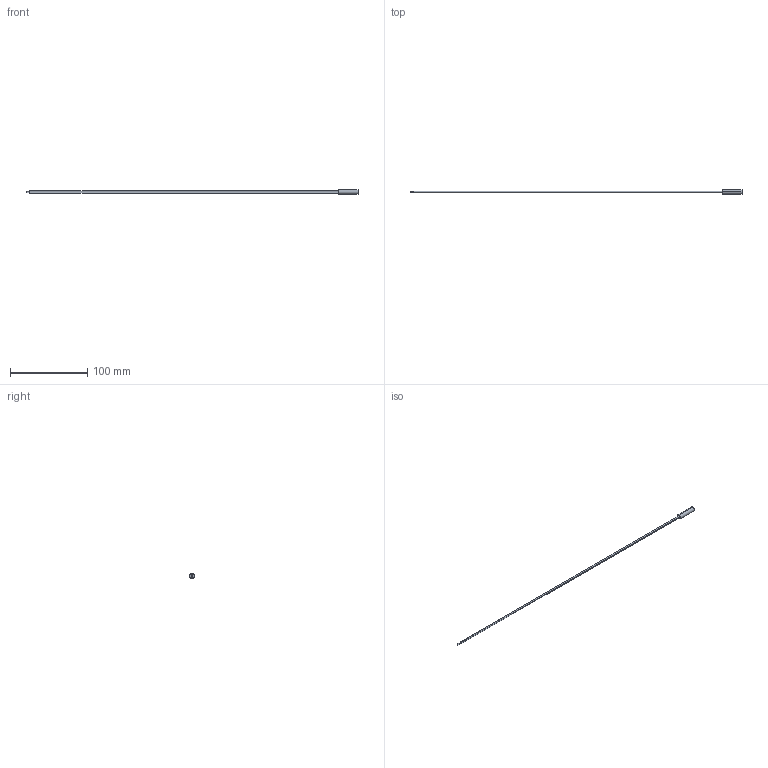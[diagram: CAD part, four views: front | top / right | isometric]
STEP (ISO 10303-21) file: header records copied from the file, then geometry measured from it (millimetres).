
FILE_DESCRIPTION (( 'STEP AP214' ), '1' );
FILE_NAME ('NTC 2381 641 46103 Thermistor Pipe Vishay (RS).STEP', '2012-04-03T07:09:40', ( 'Vishay Intertechnology, Inc.' ), ( 'Vishay Intertechnology, Inc.' ), 'SwSTEP 2.0', 'SolidWorks 2012', '' );
FILE_SCHEMA (( 'AUTOMOTIVE_DESIGN' ));
Length unit declared in the file: millimetre
Products named in the file (1): NTC 2381 641 46103 Thermistor Pipe Vishay (RS)
Bounding box: 430 x 6 x 6 mm (x, y, z)
Volume: 2123.7 mm3; surface area: 4096 mm2
Topology: 1 solids, 1 shells, 16 faces, 33 edges, 22 vertices
Faces by surface type: cylinder 9, plane 7
Entity records: 645 total; most frequent: DIRECTION 85, CARTESIAN_POINT 72, ORIENTED_EDGE 66, AXIS2_PLACEMENT_3D 35, EDGE_CURVE 33, VERTEX_POINT 22, UNCERTAINTY_MEASURE_WITH_UNIT 19, EDGE_LOOP 19
